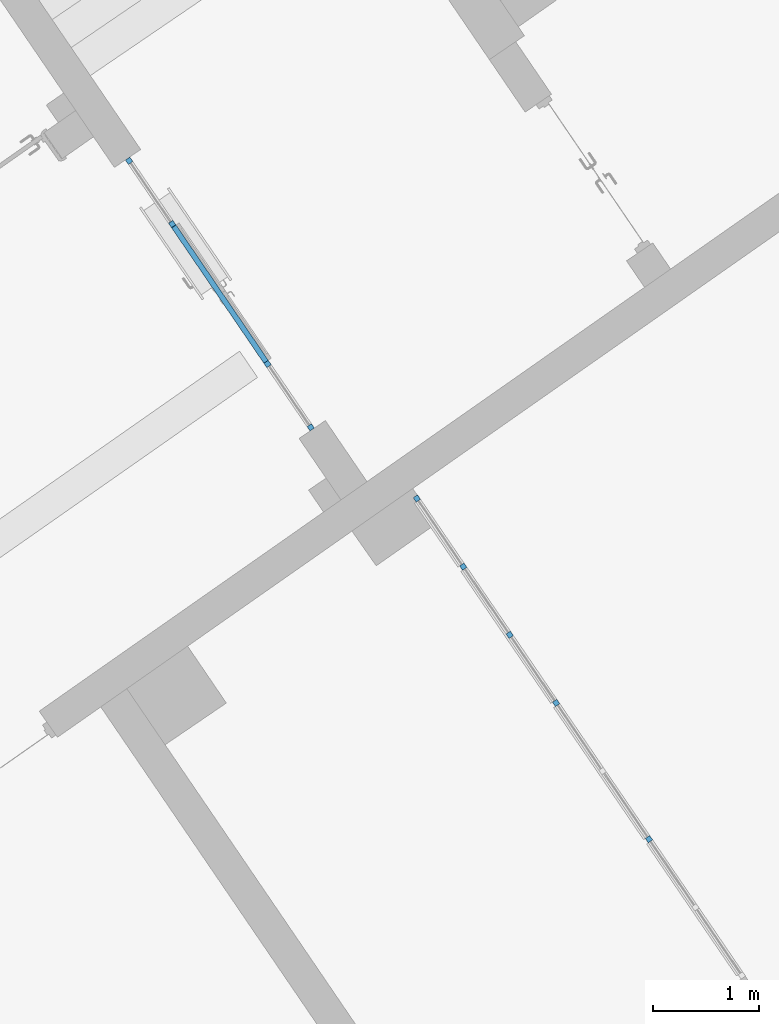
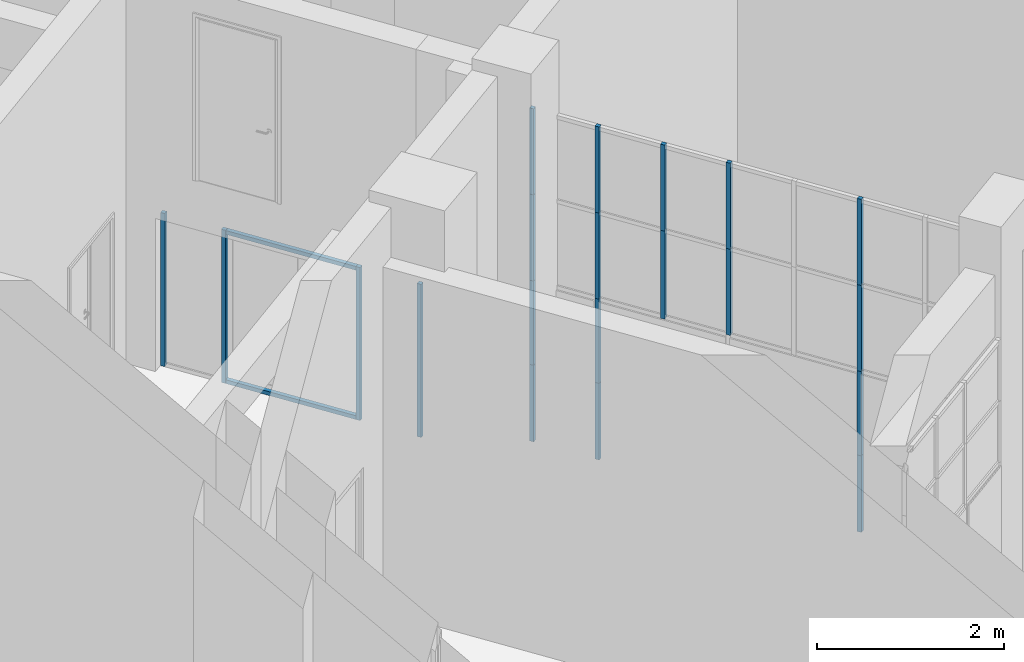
# One storey, part 28 of 157: 23 members, 2 elements without a shape of their own.
"""IFC2X3 building model written with IfcOpenShell, lengths in millimetres."""

from ifc_helpers import new_model, entity, si_unit, converted_unit, derived_unit, direction, frame, origin, origin_2d_with_axis, place, context, subcontext, project, spatial, rectangle, extrude, source, transform, mapped, material, type_object, type_shapes, element, aggregate, save


model = new_model("IFC2X3")

# Units and contexts
model_context = context("Model", 3, precision=0.01, world=origin(), true_north=direction((6.123031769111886e-17, 1.0)))
body_context = subcontext(model_context, "Body", "Model", "MODEL_VIEW")
ifc_project = project(units=[si_unit("LENGTHUNIT", "METRE", prefix="MILLI"), si_unit("AREAUNIT", "SQUARE_METRE"), si_unit("VOLUMEUNIT", "CUBIC_METRE"), converted_unit("PLANEANGLEUNIT", "DEGREE", entity("IfcRatioMeasure", 0.017453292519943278), si_unit("PLANEANGLEUNIT", "RADIAN"), dimensions=[0, 0, 0, 0, 0, 0, 0]), si_unit("MASSUNIT", "GRAM", prefix="KILO"), derived_unit("MASSDENSITYUNIT", [(si_unit("MASSUNIT", "GRAM", prefix="KILO"), 1), (si_unit("LENGTHUNIT", "METRE"), -3)]), derived_unit("MOMENTOFINERTIAUNIT", [(si_unit("LENGTHUNIT", "METRE"), 4)]), si_unit("TIMEUNIT", "SECOND"), si_unit("FREQUENCYUNIT", "HERTZ"), si_unit("THERMODYNAMICTEMPERATUREUNIT", "DEGREE_CELSIUS"), derived_unit("THERMALTRANSMITTANCEUNIT", [(si_unit("MASSUNIT", "GRAM", prefix="KILO"), 1), (si_unit("THERMODYNAMICTEMPERATUREUNIT", "KELVIN"), -1), (si_unit("TIMEUNIT", "SECOND"), -3)]), derived_unit("THERMALCONDUCTANCEUNIT", [(si_unit("MASSUNIT", "GRAM", prefix="KILO"), 1), (si_unit("LENGTHUNIT", "METRE"), 1), (si_unit("THERMODYNAMICTEMPERATUREUNIT", "KELVIN"), -1), (si_unit("TIMEUNIT", "SECOND"), -3)]), derived_unit("VOLUMETRICFLOWRATEUNIT", [(si_unit("LENGTHUNIT", "METRE"), 3), (si_unit("TIMEUNIT", "SECOND"), -1)]), derived_unit("MASSFLOWRATEUNIT", [(si_unit("MASSUNIT", "GRAM", prefix="KILO"), 1), (si_unit("TIMEUNIT", "SECOND"), -1)]), derived_unit("ROTATIONALFREQUENCYUNIT", [(si_unit("TIMEUNIT", "SECOND"), -1)]), si_unit("ELECTRICCURRENTUNIT", "AMPERE"), si_unit("ELECTRICVOLTAGEUNIT", "VOLT"), si_unit("POWERUNIT", "WATT"), converted_unit("FORCEUNIT", "KIP", entity("IfcRatioMeasure", 2.088543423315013e-05), si_unit("FORCEUNIT", "NEWTON"), dimensions=[1, 1, -2, 0, 0, 0, 0]), si_unit("ILLUMINANCEUNIT", "LUX"), si_unit("LUMINOUSFLUXUNIT", "LUMEN"), si_unit("LUMINOUSINTENSITYUNIT", "CANDELA"), derived_unit("USERDEFINED", [(si_unit("MASSUNIT", "GRAM", prefix="KILO"), -1), (si_unit("LENGTHUNIT", "METRE"), -2), (si_unit("TIMEUNIT", "SECOND"), 3), (si_unit("LUMINOUSFLUXUNIT", "LUMEN"), 1)]), derived_unit("USERDEFINED", [(si_unit("MASSUNIT", "GRAM", prefix="KILO"), 1), (si_unit("LENGTHUNIT", "METRE"), 3), (si_unit("TIMEUNIT", "SECOND"), -3), (si_unit("ELECTRICCURRENTUNIT", "AMPERE"), -2)]), derived_unit("USERDEFINED", [(si_unit("LENGTHUNIT", "METRE"), 2), (si_unit("TIMEUNIT", "SECOND"), -2)]), derived_unit("SOUNDPOWERUNIT", [(si_unit("MASSUNIT", "GRAM", prefix="KILO"), 1), (si_unit("LENGTHUNIT", "METRE"), 2), (si_unit("TIMEUNIT", "SECOND"), -3)]), derived_unit("SOUNDPRESSUREUNIT", [(si_unit("MASSUNIT", "GRAM", prefix="KILO"), 1), (si_unit("LENGTHUNIT", "METRE"), -1), (si_unit("TIMEUNIT", "SECOND"), -2)]), derived_unit("LINEARVELOCITYUNIT", [(si_unit("LENGTHUNIT", "METRE"), 1), (si_unit("TIMEUNIT", "SECOND"), -1)]), si_unit("PRESSUREUNIT", "PASCAL"), derived_unit("USERDEFINED", [(si_unit("LENGTHUNIT", "METRE"), -2), (si_unit("MASSUNIT", "GRAM", prefix="KILO"), 1), (si_unit("TIMEUNIT", "SECOND"), -2)]), derived_unit("LINEARFORCEUNIT", [(si_unit("MASSUNIT", "GRAM", prefix="KILO"), 1), (si_unit("LENGTHUNIT", "METRE"), 1), (si_unit("TIMEUNIT", "SECOND"), -2), (si_unit("LENGTHUNIT", "METRE"), -1)]), derived_unit("PLANARFORCEUNIT", [(si_unit("MASSUNIT", "GRAM", prefix="KILO"), 1), (si_unit("LENGTHUNIT", "METRE"), 1), (si_unit("TIMEUNIT", "SECOND"), -2), (si_unit("LENGTHUNIT", "METRE"), -2)]), derived_unit("SPECIFICHEATCAPACITYUNIT", [(si_unit("LENGTHUNIT", "METRE"), 2), (si_unit("TIMEUNIT", "SECOND"), -2), (si_unit("THERMODYNAMICTEMPERATUREUNIT", "KELVIN"), -1)]), derived_unit("VAPORPERMEABILITYUNIT", [(si_unit("TIMEUNIT", "SECOND"), 1), (si_unit("LENGTHUNIT", "METRE"), -1)]), derived_unit("DYNAMICVISCOSITYUNIT", [(si_unit("MASSUNIT", "GRAM", prefix="KILO"), 1), (si_unit("LENGTHUNIT", "METRE"), -1), (si_unit("TIMEUNIT", "SECOND"), -1)]), derived_unit("THERMALEXPANSIONCOEFFICIENTUNIT", [(si_unit("THERMODYNAMICTEMPERATUREUNIT", "KELVIN"), -1)])], contexts=[model_context])

# Site, building, storey
site_placement = place(None, frame((0.0, 0.0, 0.0), z_axis=(0.0, 0.0, 1.0), x_axis=(0.8191520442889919, 0.5735764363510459, 0.0)))
site = spatial("IfcSite", under=ifc_project, at=site_placement, Name="Default", CompositionType="ELEMENT")
building_placement = place(site_placement, origin())
building = spatial("IfcBuilding", under=site, at=building_placement, CompositionType="ELEMENT")
storey_placement = place(building_placement, origin())
storey = spatial("IfcBuildingStorey", under=building, at=storey_placement, Name="1.EG +0.00", CompositionType="ELEMENT", Elevation=-4.331468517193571e-12)

# Curtain wall, members
curtain_wall_type_1 = type_object("IfcCurtainWallType", Name="Curtain Wall:Curtain_Wall_CJC_Int5", PredefinedType="NOTDEFINED")
curtain_wall_1_placement = place(storey_placement, origin())
curtain_wall_1 = element("IfcCurtainWall", 1, at=curtain_wall_1_placement, inside=storey, type_object=curtain_wall_type_1, Name="Curtain Wall:Curtain_Wall_CJC_Int5", ObjectType="Curtain Wall:Curtain_Wall_CJC_Int5")
ifc_material = material(Name="Aluminium")
member_type_1 = type_object("IfcMemberType", Name="Rectangular Mullion:5x5", PredefinedType="MULLION", material=ifc_material)
shared_shape_1 = source(origin(), body_context, "Body", "SweptSolid", [
    extrude(rectangle(XDim=49.99999999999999, YDim=50.0, at=origin_2d_with_axis()), frame((-25.0, 0.0, -1000.0), z_axis=(0.0, 0.0, 1.0), x_axis=(0.0, -1.0, 0.0)), (0.0, 0.0, 1.0), 999.9999999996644),
])
type_shapes(member_type_1, [shared_shape_1])
member_1_placement = place(curtain_wall_1_placement, frame((-209886.15509086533, 163746.35891435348, 0.0), z_axis=(0.0, 0.0, -1.0), x_axis=(0.012616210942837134, 0.9999204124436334, 0.0)))
member_1 = element("IfcMember", 2, at=member_1_placement, type_object=member_type_1, material=ifc_material, Name="Rectangular Mullion:5x5", ObjectType="Rectangular Mullion:5x5", context=body_context, shape_type="MappedRepresentation", body=[
    mapped(shared_shape_1, transform((0.0, 0.0, 0.0), scale=1.0)),
])
member_type_2 = type_object("IfcMemberType", Name="Rectangular Mullion:5x5", PredefinedType="MULLION", material=ifc_material)
shared_shape_2 = source(origin(), body_context, "Body", "SweptSolid", [
    extrude(rectangle(XDim=50.0, YDim=50.0, at=origin_2d_with_axis()), frame((-25.0, 0.0, -1100.0), z_axis=(0.0, 0.0, 1.0), x_axis=(0.0, -1.0, 0.0)), (0.0, 0.0, 1.0), 1100.0),
])
type_shapes(member_type_2, [shared_shape_2])
member_2_placement = place(curtain_wall_1_placement, frame((-209886.15509086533, 163746.35891435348, 1000.0), z_axis=(0.0, 0.0, -1.0), x_axis=(0.012616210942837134, 0.9999204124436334, 0.0)))
member_2 = element("IfcMember", 3, at=member_2_placement, type_object=member_type_2, material=ifc_material, Name="Rectangular Mullion:5x5", ObjectType="Rectangular Mullion:5x5", context=body_context, shape_type="MappedRepresentation", body=[
    mapped(shared_shape_2, transform((0.0, 0.0, 0.0), scale=1.0)),
])
member_type_3 = type_object("IfcMemberType", Name="Rectangular Mullion:5x5", PredefinedType="MULLION", material=ifc_material)
shared_shape_3 = source(origin(), body_context, "Body", "SweptSolid", [
    extrude(rectangle(XDim=50.0, YDim=50.0, at=origin_2d_with_axis()), frame((-25.0, 0.0, -1125.0), z_axis=(0.0, 0.0, 1.0), x_axis=(0.0, -1.0, 0.0)), (0.0, 0.0, 1.0), 1124.9999999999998),
])
type_shapes(member_type_3, [shared_shape_3])
member_3_placement = place(curtain_wall_1_placement, frame((-209886.15509086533, 163746.35891435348, 2100.0), z_axis=(0.0, 0.0, -1.0), x_axis=(0.012616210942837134, 0.9999204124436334, 0.0)))
member_3 = element("IfcMember", 4, at=member_3_placement, type_object=member_type_3, material=ifc_material, Name="Rectangular Mullion:5x5", ObjectType="Rectangular Mullion:5x5", context=body_context, shape_type="MappedRepresentation", body=[
    mapped(shared_shape_3, transform((0.0, 0.0, 0.0), scale=1.0)),
])
member_type_4 = type_object("IfcMemberType", Name="Rectangular Mullion:5x5", PredefinedType="MULLION", material=ifc_material)
shared_shape_4 = source(origin(), body_context, "Body", "SweptSolid", [
    extrude(rectangle(XDim=50.0, YDim=50.0, at=origin_2d_with_axis()), frame((-25.0, 0.0, -1125.0), z_axis=(0.0, 0.0, 1.0), x_axis=(0.0, -1.0, 0.0)), (0.0, 0.0, 1.0), 1125.0000000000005),
])
type_shapes(member_type_4, [shared_shape_4])
member_4_placement = place(curtain_wall_1_placement, frame((-209886.15509086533, 163746.35891435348, 3225.0), z_axis=(0.0, 0.0, -1.0), x_axis=(0.012616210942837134, 0.9999204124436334, 0.0)))
member_4 = element("IfcMember", 5, at=member_4_placement, type_object=member_type_4, material=ifc_material, Name="Rectangular Mullion:5x5", ObjectType="Rectangular Mullion:5x5", context=body_context, shape_type="MappedRepresentation", body=[
    mapped(shared_shape_4, transform((0.0, 0.0, 0.0), scale=1.0)),
])
member_type_5 = type_object("IfcMemberType", Name="Rectangular Mullion:5x5", PredefinedType="MULLION", material=ifc_material)
shared_shape_5 = source(origin(), body_context, "Body", "SweptSolid", [
    extrude(rectangle(XDim=50.0, YDim=50.0, at=origin_2d_with_axis()), frame((0.0, 0.0, -1000.0), z_axis=(0.0, 0.0, 1.0), x_axis=(0.0, -1.0, 0.0)), (0.0, 0.0, 1.0), 1000.0000000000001),
])
type_shapes(member_type_5, [shared_shape_5])
member_5_placement = place(curtain_wall_1_placement, frame((-209935.5875479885, 159828.50091890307, 0.0), z_axis=(0.0, 0.0, -1.0), x_axis=(0.012616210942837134, 0.9999204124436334, 0.0)))
member_5 = element("IfcMember", 6, at=member_5_placement, type_object=member_type_5, material=ifc_material, Name="Rectangular Mullion:5x5", ObjectType="Rectangular Mullion:5x5", context=body_context, shape_type="MappedRepresentation", body=[
    mapped(shared_shape_5, transform((0.0, 0.0, 0.0), scale=1.0)),
])
member_6_placement = place(curtain_wall_1_placement, frame((-209896.29390651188, 162942.78890677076, 0.0), z_axis=(0.0, 0.0, -1.0), x_axis=(0.012616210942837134, 0.9999204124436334, 0.0)))
member_6 = element("IfcMember", 7, at=member_6_placement, type_object=member_type_5, material=ifc_material, Name="Rectangular Mullion:5x5", ObjectType="Rectangular Mullion:5x5", context=body_context, shape_type="MappedRepresentation", body=[
    mapped(shared_shape_5, transform((0.0, 0.0, 0.0), scale=1.0)),
])
member_type_6 = type_object("IfcMemberType", Name="Rectangular Mullion:5x5", PredefinedType="MULLION", material=ifc_material)
shared_shape_6 = source(origin(), body_context, "Body", "SweptSolid", [
    extrude(rectangle(XDim=50.0, YDim=50.0, at=origin_2d_with_axis()), frame((0.0, 0.0, -1100.0), z_axis=(0.0, 0.0, 1.0), x_axis=(0.0, -1.0, 0.0)), (0.0, 0.0, 1.0), 1100.0),
])
type_shapes(member_type_6, [shared_shape_6])
member_7_placement = place(curtain_wall_1_placement, frame((-209935.5875479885, 159828.50091890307, 1000.0), z_axis=(0.0, 0.0, -1.0), x_axis=(0.012616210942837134, 0.9999204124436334, 0.0)))
member_7 = element("IfcMember", 8, at=member_7_placement, type_object=member_type_6, material=ifc_material, Name="Rectangular Mullion:5x5", ObjectType="Rectangular Mullion:5x5", context=body_context, shape_type="MappedRepresentation", body=[
    mapped(shared_shape_6, transform((0.0, 0.0, 0.0), scale=1.0)),
])
member_8_placement = place(curtain_wall_1_placement, frame((-209896.29390651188, 162942.78890677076, 1000.0), z_axis=(0.0, 0.0, -1.0), x_axis=(0.012616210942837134, 0.9999204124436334, 0.0)))
member_8 = element("IfcMember", 9, at=member_8_placement, type_object=member_type_6, material=ifc_material, Name="Rectangular Mullion:5x5", ObjectType="Rectangular Mullion:5x5", context=body_context, shape_type="MappedRepresentation", body=[
    mapped(shared_shape_6, transform((0.0, 0.0, 0.0), scale=1.0)),
])
member_type_7 = type_object("IfcMemberType", Name="Rectangular Mullion:5x5", PredefinedType="MULLION", material=ifc_material)
shared_shape_7 = source(origin(), body_context, "Body", "SweptSolid", [
    extrude(rectangle(XDim=50.0, YDim=50.0, at=origin_2d_with_axis()), frame((0.0, 0.0, -1150.0), z_axis=(0.0, 0.0, 1.0), x_axis=(0.0, -1.0, 0.0)), (0.0, 0.0, 1.0), 1149.9999999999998),
])
type_shapes(member_type_7, [shared_shape_7])
member_9_placement = place(curtain_wall_1_placement, frame((-209906.11731688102, 162164.2169098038, 2075.0), z_axis=(0.0, 0.0, -1.0), x_axis=(0.012616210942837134, 0.9999204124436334, 0.0)))
member_9 = element("IfcMember", 10, at=member_9_placement, type_object=member_type_7, material=ifc_material, Name="Rectangular Mullion:5x5", ObjectType="Rectangular Mullion:5x5", context=body_context, shape_type="MappedRepresentation", body=[
    mapped(shared_shape_7, transform((0.0, 0.0, 0.0), scale=1.0)),
])
member_type_8 = type_object("IfcMemberType", Name="Rectangular Mullion:5x5", PredefinedType="MULLION", material=ifc_material)
shared_shape_8 = source(origin(), body_context, "Body", "SweptSolid", [
    extrude(rectangle(XDim=50.0, YDim=50.0, at=origin_2d_with_axis()), frame((0.0, 0.0, -1125.0), z_axis=(0.0, 0.0, 1.0), x_axis=(0.0, -1.0, 0.0)), (0.0, 0.0, 1.0), 1124.9999999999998),
])
type_shapes(member_type_8, [shared_shape_8])
member_10_placement = place(curtain_wall_1_placement, frame((-209935.5875479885, 159828.50091890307, 2100.0), z_axis=(0.0, 0.0, -1.0), x_axis=(0.012616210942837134, 0.9999204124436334, 0.0)))
member_10 = element("IfcMember", 11, at=member_10_placement, type_object=member_type_8, material=ifc_material, Name="Rectangular Mullion:5x5", ObjectType="Rectangular Mullion:5x5", context=body_context, shape_type="MappedRepresentation", body=[
    mapped(shared_shape_8, transform((0.0, 0.0, 0.0), scale=1.0)),
])
member_11_placement = place(curtain_wall_1_placement, frame((-209915.94072725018, 161385.6449128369, 2100.0), z_axis=(0.0, 0.0, -1.0), x_axis=(0.012616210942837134, 0.9999204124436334, 0.0)))
member_11 = element("IfcMember", 12, at=member_11_placement, type_object=member_type_8, material=ifc_material, Name="Rectangular Mullion:5x5", ObjectType="Rectangular Mullion:5x5", context=body_context, shape_type="MappedRepresentation", body=[
    mapped(shared_shape_8, transform((0.0, 0.0, 0.0), scale=1.0)),
])
member_12_placement = place(curtain_wall_1_placement, frame((-209896.29390651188, 162942.78890677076, 2100.0), z_axis=(0.0, 0.0, -1.0), x_axis=(0.012616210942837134, 0.9999204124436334, 0.0)))
member_12 = element("IfcMember", 13, at=member_12_placement, type_object=member_type_8, material=ifc_material, Name="Rectangular Mullion:5x5", ObjectType="Rectangular Mullion:5x5", context=body_context, shape_type="MappedRepresentation", body=[
    mapped(shared_shape_8, transform((0.0, 0.0, 0.0), scale=1.0)),
])
member_type_9 = type_object("IfcMemberType", Name="Rectangular Mullion:5x5", PredefinedType="MULLION", material=ifc_material)
shared_shape_9 = source(origin(), body_context, "Body", "SweptSolid", [
    extrude(rectangle(XDim=50.0, YDim=50.0, at=origin_2d_with_axis()), frame((0.0, 0.0, -1125.0), z_axis=(0.0, 0.0, 1.0), x_axis=(0.0, -1.0, 0.0)), (0.0, 0.0, 1.0), 1124.9999999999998),
])
type_shapes(member_type_9, [shared_shape_9])
member_13_placement = place(curtain_wall_1_placement, frame((-209935.5875479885, 159828.50091890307, 3225.0), z_axis=(0.0, 0.0, -1.0), x_axis=(0.012616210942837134, 0.9999204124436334, 0.0)))
member_13 = element("IfcMember", 14, at=member_13_placement, type_object=member_type_9, material=ifc_material, Name="Rectangular Mullion:5x5", ObjectType="Rectangular Mullion:5x5", context=body_context, shape_type="MappedRepresentation", body=[
    mapped(shared_shape_9, transform((0.0, 0.0, 0.0), scale=1.0)),
])
member_14_placement = place(curtain_wall_1_placement, frame((-209915.94072725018, 161385.6449128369, 3225.0), z_axis=(0.0, 0.0, -1.0), x_axis=(0.012616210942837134, 0.9999204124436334, 0.0)))
member_14 = element("IfcMember", 15, at=member_14_placement, type_object=member_type_9, material=ifc_material, Name="Rectangular Mullion:5x5", ObjectType="Rectangular Mullion:5x5", context=body_context, shape_type="MappedRepresentation", body=[
    mapped(shared_shape_9, transform((0.0, 0.0, 0.0), scale=1.0)),
])
member_15_placement = place(curtain_wall_1_placement, frame((-209906.11731688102, 162164.2169098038, 3225.0), z_axis=(0.0, 0.0, -1.0), x_axis=(0.012616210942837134, 0.9999204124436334, 0.0)))
member_15 = element("IfcMember", 16, at=member_15_placement, type_object=member_type_9, material=ifc_material, Name="Rectangular Mullion:5x5", ObjectType="Rectangular Mullion:5x5", context=body_context, shape_type="MappedRepresentation", body=[
    mapped(shared_shape_9, transform((0.0, 0.0, 0.0), scale=1.0)),
])
member_16_placement = place(curtain_wall_1_placement, frame((-209896.29390651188, 162942.78890677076, 3225.0), z_axis=(0.0, 0.0, -1.0), x_axis=(0.012616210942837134, 0.9999204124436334, 0.0)))
member_16 = element("IfcMember", 17, at=member_16_placement, type_object=member_type_9, material=ifc_material, Name="Rectangular Mullion:5x5", ObjectType="Rectangular Mullion:5x5", context=body_context, shape_type="MappedRepresentation", body=[
    mapped(shared_shape_9, transform((0.0, 0.0, 0.0), scale=1.0)),
])
aggregate(curtain_wall_1, [member_1, member_2, member_3, member_4, member_5, member_7, member_10, member_11, member_13, member_14, member_6, member_8, member_9, member_12, member_15, member_16])

curtain_wall_type_2 = type_object("IfcCurtainWallType", Name="Curtain Wall:Curtain_Wall_CJC_ENTR1", PredefinedType="NOTDEFINED")
curtain_wall_2_placement = place(storey_placement, origin())
curtain_wall_2 = element("IfcCurtainWall", 18, at=curtain_wall_2_placement, inside=storey, type_object=curtain_wall_type_2, Name="Curtain Wall:Curtain_Wall_CJC_ENTR1", ObjectType="Curtain Wall:Curtain_Wall_CJC_ENTR1")
member_type_10 = type_object("IfcMemberType", Name="Rectangular Mullion:5x5", PredefinedType="MULLION", material=ifc_material)
shared_shape_10 = source(origin(), body_context, "Body", "SweptSolid", [
    extrude(rectangle(XDim=49.99999999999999, YDim=50.0, at=origin_2d_with_axis()), frame((-25.0, 0.0, -1546.1240925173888), z_axis=(0.0, 0.0, 1.0), x_axis=(0.0, -1.0, 0.0)), (0.0, 0.0, 1.0), 1546.1240925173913),
])
type_shapes(member_type_10, [shared_shape_10])
member_17_placement = place(curtain_wall_2_placement, frame((-210292.36300070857, 167142.29493898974, 2000.0), z_axis=(0.012729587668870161, 0.9999189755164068, 0.0), x_axis=(0.0, 0.0, 1.0)))
member_17 = element("IfcMember", 19, at=member_17_placement, type_object=member_type_10, material=ifc_material, Name="Rectangular Mullion:5x5", ObjectType="Rectangular Mullion:5x5", context=body_context, shape_type="MappedRepresentation", body=[
    mapped(shared_shape_10, transform((0.0, 0.0, 0.0), scale=1.0)),
])
member_type_11 = type_object("IfcMemberType", Name="Rectangular Mullion:5x5", PredefinedType="MULLION", material=ifc_material)
shared_shape_11 = source(origin(), body_context, "Body", "SweptSolid", [
    extrude(rectangle(XDim=50.0, YDim=50.0, at=origin_2d_with_axis()), frame((-25.0, 0.0, -1546.1240925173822), z_axis=(0.0, 0.0, 1.0), x_axis=(0.0, -1.0, 0.0)), (0.0, 0.0, 1.0), 1546.1240925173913),
])
type_shapes(member_type_11, [shared_shape_11])
member_18_placement = place(curtain_wall_2_placement, frame((-210312.0445228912, 165596.2961203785, 0.0), z_axis=(-0.012729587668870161, -0.9999189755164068, 0.0), x_axis=(0.0, 0.0, -1.0)))
member_18 = element("IfcMember", 20, at=member_18_placement, type_object=member_type_11, material=ifc_material, Name="Rectangular Mullion:5x5", ObjectType="Rectangular Mullion:5x5", context=body_context, shape_type="MappedRepresentation", body=[
    mapped(shared_shape_11, transform((0.0, 0.0, 0.0), scale=1.0)),
])
member_type_12 = type_object("IfcMemberType", Name="Rectangular Mullion:5x5", PredefinedType="MULLION", material=ifc_material)
shared_shape_12 = source(origin(), body_context, "Body", "SweptSolid", [
    extrude(rectangle(XDim=50.000000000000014, YDim=50.0, at=origin_2d_with_axis()), frame((-25.0, 0.0, -2000.0), z_axis=(0.0, 0.0, 1.0), x_axis=(0.0, -1.0, 0.0)), (0.0, 0.0, 1.0), 2000.0000000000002),
])
type_shapes(member_type_12, [shared_shape_12])
member_19_placement = place(curtain_wall_2_placement, frame((-210282.4975702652, 167917.23214501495, 0.0), z_axis=(0.0, 0.0, -1.0), x_axis=(0.012729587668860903, 0.999918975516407, 0.0)))
member_19 = element("IfcMember", 21, at=member_19_placement, type_object=member_type_12, material=ifc_material, Name="Rectangular Mullion:5x5", ObjectType="Rectangular Mullion:5x5", context=body_context, shape_type="MappedRepresentation", body=[
    mapped(shared_shape_12, transform((0.0, 0.0, 0.0), scale=1.0)),
])
member_type_13 = type_object("IfcMemberType", Name="Rectangular Mullion:5x5", PredefinedType="MULLION", material=ifc_material)
shared_shape_13 = source(origin(), body_context, "Body", "SweptSolid", [
    extrude(rectangle(XDim=50.000000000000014, YDim=50.0, at=origin_2d_with_axis()), frame((-25.0, 0.0, -2000.0), z_axis=(0.0, 0.0, 1.0), x_axis=(0.0, -1.0, 0.0)), (0.0, 0.0, 1.0), 2000.0000000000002),
])
type_shapes(member_type_13, [shared_shape_13])
member_20_placement = place(curtain_wall_2_placement, frame((-210321.90995333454, 164821.35891435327, 2000.0), z_axis=(0.0, 0.0, 1.0), x_axis=(-0.012729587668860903, -0.999918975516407, 0.0)))
member_20 = element("IfcMember", 22, at=member_20_placement, type_object=member_type_13, material=ifc_material, Name="Rectangular Mullion:5x5", ObjectType="Rectangular Mullion:5x5", context=body_context, shape_type="MappedRepresentation", body=[
    mapped(shared_shape_13, transform((0.0, 0.0, 0.0), scale=1.0)),
])
member_type_14 = type_object("IfcMemberType", Name="Rectangular Mullion:5x5", PredefinedType="MULLION", material=ifc_material)
shared_shape_14 = source(origin(), body_context, "Body", "SweptSolid", [
    extrude(rectangle(XDim=50.0, YDim=50.0, at=origin_2d_with_axis()), frame((0.0, 0.0, -2000.0), z_axis=(0.0, 0.0, 1.0), x_axis=(0.0, -1.0, 0.0)), (0.0, 0.0, 1.0), 2000.0000000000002),
])
type_shapes(member_type_14, [shared_shape_14])
member_21_placement = place(curtain_wall_2_placement, frame((-210312.36276258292, 165571.29814599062, 0.0), z_axis=(0.0, 0.0, -1.0), x_axis=(0.012729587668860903, 0.999918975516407, 0.0)))
member_21 = element("IfcMember", 23, at=member_21_placement, type_object=member_type_14, material=ifc_material, Name="Rectangular Mullion:5x5", ObjectType="Rectangular Mullion:5x5", context=body_context, shape_type="MappedRepresentation", body=[
    mapped(shared_shape_14, transform((0.0, 0.0, 0.0), scale=1.0)),
])
member_22_placement = place(curtain_wall_2_placement, frame((-210291.99542231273, 167171.16850681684, 0.0), z_axis=(0.0, 0.0, -1.0), x_axis=(0.012729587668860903, 0.999918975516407, 0.0)))
member_22 = element("IfcMember", 24, at=member_22_placement, type_object=member_type_14, material=ifc_material, Name="Rectangular Mullion:5x5", ObjectType="Rectangular Mullion:5x5", context=body_context, shape_type="MappedRepresentation", body=[
    mapped(shared_shape_14, transform((0.0, 0.0, 0.0), scale=1.0)),
])
member_23_placement = place(curtain_wall_2_placement, frame((-210292.04476101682, 167167.29291337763, 0.0), z_axis=(0.0, 0.0, -1.0), x_axis=(0.012729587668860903, 0.999918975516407, 0.0)))
member_23 = element("IfcMember", 25, at=member_23_placement, type_object=member_type_14, material=ifc_material, Name="Rectangular Mullion:5x5", ObjectType="Rectangular Mullion:5x5", context=body_context, shape_type="MappedRepresentation", body=[
    mapped(shared_shape_14, transform((0.0, 0.0, 0.0), scale=1.0)),
])
aggregate(curtain_wall_2, [member_17, member_18, member_19, member_20, member_21, member_22, member_23])

save(model, "model.ifc")
